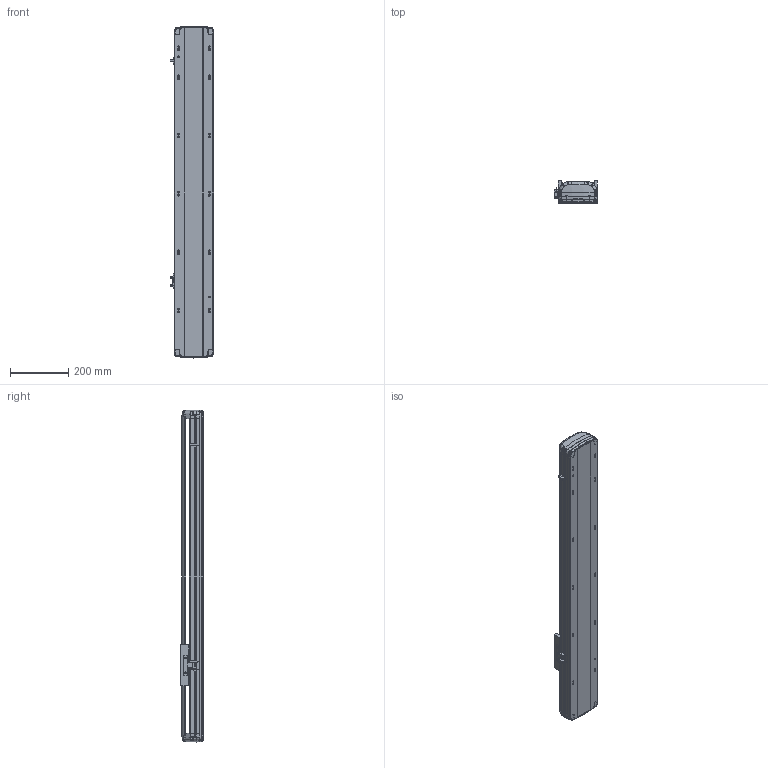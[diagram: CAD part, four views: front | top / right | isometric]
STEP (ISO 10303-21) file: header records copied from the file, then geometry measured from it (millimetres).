
FILE_DESCRIPTION (( 'STEP AP214' ), '1' );
FILE_NAME ('RTH14-XX-750-B-M20-C4.STEP', '2025-10-25T02:22:41', ( 'Microsoft' ), ( 'Microsoft' ), 'SwSTEP 2.0', 'SolidWorks 2018', '' );
FILE_SCHEMA (( 'AUTOMOTIVE_DESIGN' ));
Length unit declared in the file: millimetre
Products named in the file (7): N_RTH13-L-012感应片（外置）^RTH14-XX-XX-B-M20-C4; RTH14-XX-750-B-M20-C4; N_OMRON EE-SX672 传感器^RTH14-XX-XX-B-M20-C4; N_RTH14-B-007奻裔^RTH14-XX-XX-B-M20-C4; N_RTH14-R-004-SFSR16賑釱^RTH14-XX-XX-B-M20-C4; N_RTH14-B-011P菁釱^RTH14-XX-XX-B-M20-C4; N_RTH14-GY-001P^RTH14-XX-XX-B-M20-C4
Assembly tree (9 placements, depth 2):
  RTH14-XX-750-B-M20-C4
    N_RTH14-B-011P菁釱^RTH14-XX-XX-B-M20-C4
    N_RTH14-B-007奻裔^RTH14-XX-XX-B-M20-C4
    N_RTH13-L-012感应片（外置）^RTH14-XX-XX-B-M20-C4
    N_OMRON EE-SX672 传感器^RTH14-XX-XX-B-M20-C4  x3
    N_RTH14-R-004-SFSR16賑釱^RTH14-XX-XX-B-M20-C4
    N_RTH14-GY-001P^RTH14-XX-XX-B-M20-C4  x2
Bounding box: 148.5 x 78.03 x 1138.99 mm (x, y, z)
Volume: 4650474.2 mm3; surface area: 1072610.3 mm2
Topology: 9 solids, 9 shells, 1936 faces, 5458 edges, 3554 vertices
Faces by surface type: plane 983, bspline 450, cylinder 439, cone 56, torus 8
Entity records: 47346 total; most frequent: CARTESIAN_POINT 21030, ORIENTED_EDGE 5932, DIRECTION 4389, EDGE_CURVE 2966, VERTEX_POINT 1940, LINE 1661, VECTOR 1661, AXIS2_PLACEMENT_3D 1364
